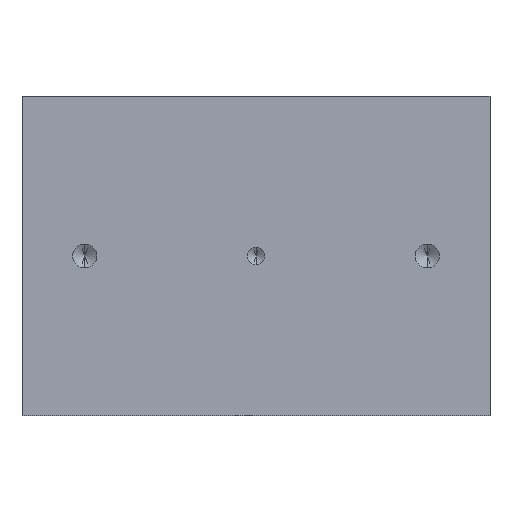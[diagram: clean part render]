
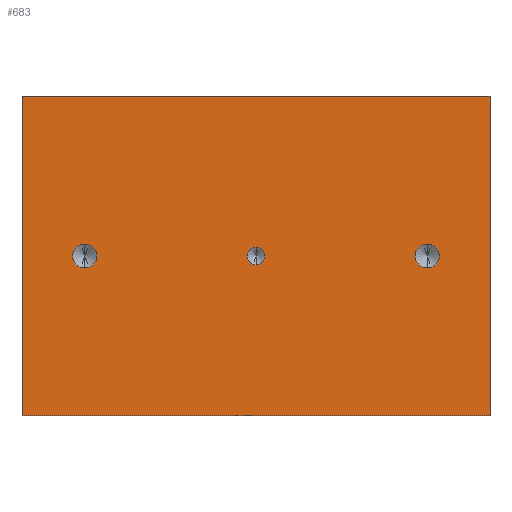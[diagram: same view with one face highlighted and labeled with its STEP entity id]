
A CAD part, front view. The second image highlights one B-rep face of the part: STEP entity #683.
In plain terms, the highlighted planar face has unit normal (0, -1, 0).
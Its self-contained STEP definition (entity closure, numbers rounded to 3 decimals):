
#3 = DIRECTION ( 'NONE',  ( -1., 0., 0. ) ) ;
#18 = CARTESIAN_POINT ( 'NONE',  ( 11., 0., 25.9 ) ) ;
#33 = CARTESIAN_POINT ( 'NONE',  ( 82., 0., 56. ) ) ;
#38 = VERTEX_POINT ( 'NONE', #209 ) ;
#43 = CARTESIAN_POINT ( 'NONE',  ( 82., 0., 0. ) ) ;
#58 = CARTESIAN_POINT ( 'NONE',  ( 11., 0., 30.1 ) ) ;
#63 = CARTESIAN_POINT ( 'NONE',  ( 71., 0., 25.9 ) ) ;
#74 = CARTESIAN_POINT ( 'NONE',  ( 0., 0., 0. ) ) ;
#90 = VERTEX_POINT ( 'NONE', #94 ) ;
#91 = CARTESIAN_POINT ( 'NONE',  ( 0., 0., 0. ) ) ;
#94 = CARTESIAN_POINT ( 'NONE',  ( 0., 0., 56. ) ) ;
#98 = CARTESIAN_POINT ( 'NONE',  ( 41., 0., 29.5 ) ) ;
#111 = CARTESIAN_POINT ( 'NONE',  ( 71., 0., 30.1 ) ) ;
#138 = DIRECTION ( 'NONE',  ( 1., 0., 0. ) ) ;
#154 = CARTESIAN_POINT ( 'NONE',  ( 82., 0., 0. ) ) ;
#158 = CARTESIAN_POINT ( 'NONE',  ( 0., 0., 56. ) ) ;
#172 = DIRECTION ( 'NONE',  ( 0., -1., 0. ) ) ;
#173 = DIRECTION ( 'NONE',  ( 0., -1., 0. ) ) ;
#174 = VERTEX_POINT ( 'NONE', #43 ) ;
#175 = DIRECTION ( 'NONE',  ( 0., 0., -1. ) ) ;
#186 = VERTEX_POINT ( 'NONE', #98 ) ;
#201 = DIRECTION ( 'NONE',  ( 0., -1., 0. ) ) ;
#204 = CARTESIAN_POINT ( 'NONE',  ( 11., 0., 28. ) ) ;
#207 = VERTEX_POINT ( 'NONE', #18 ) ;
#209 = CARTESIAN_POINT ( 'NONE',  ( 41., 0., 26.5 ) ) ;
#212 = VERTEX_POINT ( 'NONE', #58 ) ;
#225 = VERTEX_POINT ( 'NONE', #111 ) ;
#229 = DIRECTION ( 'NONE',  ( 0., 0., -1. ) ) ;
#234 = VERTEX_POINT ( 'NONE', #33 ) ;
#250 = CARTESIAN_POINT ( 'NONE',  ( 41., 0., 28. ) ) ;
#251 = DIRECTION ( 'NONE',  ( 0., 0., -1. ) ) ;
#263 = CARTESIAN_POINT ( 'NONE',  ( 71., 0., 28. ) ) ;
#265 = VERTEX_POINT ( 'NONE', #91 ) ;
#268 = VERTEX_POINT ( 'NONE', #63 ) ;
#279 = DIRECTION ( 'NONE',  ( 0., 0., -1. ) ) ;
#282 = AXIS2_PLACEMENT_3D ( 'NONE', #532, #518, #519 ) ;
#353 = EDGE_CURVE ( 'NONE', #90, #234, #1354, .T. ) ;
#362 = EDGE_CURVE ( 'NONE', #234, #174, #1173, .T. ) ;
#368 = EDGE_CURVE ( 'NONE', #174, #265, #1183, .T. ) ;
#378 = EDGE_CURVE ( 'NONE', #268, #225, #1150, .T. ) ;
#379 = EDGE_CURVE ( 'NONE', #38, #186, #1151, .T. ) ;
#380 = EDGE_CURVE ( 'NONE', #207, #212, #1154, .T. ) ;
#403 = EDGE_CURVE ( 'NONE', #212, #207, #1391, .T. ) ;
#406 = EDGE_CURVE ( 'NONE', #186, #38, #1267, .T. ) ;
#411 = EDGE_CURVE ( 'NONE', #225, #268, #1289, .T. ) ;
#518 = DIRECTION ( 'NONE',  ( 0., 1., 0. ) ) ;
#519 = DIRECTION ( 'NONE',  ( 0., 0., 1. ) ) ;
#532 = CARTESIAN_POINT ( 'NONE',  ( 0., 0., 56. ) ) ;
#535 = PLANE ( 'NONE',  #282 ) ;
#643 = EDGE_CURVE ( 'NONE', #265, #90, #1406, .T. ) ;
#683 = ADVANCED_FACE ( 'NONE', ( #775, #783, #782, #785 ), #535, .F. ) ;
#775 = FACE_BOUND ( 'NONE', #1050, .T. ) ;
#782 = FACE_BOUND ( 'NONE', #1048, .T. ) ;
#783 = FACE_BOUND ( 'NONE', #1009, .T. ) ;
#785 = FACE_OUTER_BOUND ( 'NONE', #986, .T. ) ;
#986 = EDGE_LOOP ( 'NONE', ( #1237, #1253, #1254, #1250 ) ) ;
#1009 = EDGE_LOOP ( 'NONE', ( #1222, #1256 ) ) ;
#1048 = EDGE_LOOP ( 'NONE', ( #1255, #1236 ) ) ;
#1050 = EDGE_LOOP ( 'NONE', ( #1161, #1221 ) ) ;
#1150 = CIRCLE ( 'NONE', #1792, 2.1 ) ;
#1151 = CIRCLE ( 'NONE', #1814, 1.5 ) ;
#1154 = CIRCLE ( 'NONE', #1799, 2.1 ) ;
#1161 = ORIENTED_EDGE ( 'NONE', *, *, #379, .F. ) ;
#1173 = LINE ( 'NONE', #154, #1325 ) ;
#1179 = VECTOR ( 'NONE', #3, 1000. ) ;
#1183 = LINE ( 'NONE', #74, #1179 ) ;
#1221 = ORIENTED_EDGE ( 'NONE', *, *, #406, .F. ) ;
#1222 = ORIENTED_EDGE ( 'NONE', *, *, #380, .F. ) ;
#1236 = ORIENTED_EDGE ( 'NONE', *, *, #411, .F. ) ;
#1237 = ORIENTED_EDGE ( 'NONE', *, *, #643, .F. ) ;
#1250 = ORIENTED_EDGE ( 'NONE', *, *, #353, .F. ) ;
#1253 = ORIENTED_EDGE ( 'NONE', *, *, #368, .F. ) ;
#1254 = ORIENTED_EDGE ( 'NONE', *, *, #362, .F. ) ;
#1255 = ORIENTED_EDGE ( 'NONE', *, *, #378, .F. ) ;
#1256 = ORIENTED_EDGE ( 'NONE', *, *, #403, .F. ) ;
#1267 = CIRCLE ( 'NONE', #1807, 1.5 ) ;
#1289 = CIRCLE ( 'NONE', #1805, 2.1 ) ;
#1324 = VECTOR ( 'NONE', #138, 1000. ) ;
#1325 = VECTOR ( 'NONE', #279, 1000. ) ;
#1354 = LINE ( 'NONE', #158, #1324 ) ;
#1391 = CIRCLE ( 'NONE', #1802, 2.1 ) ;
#1406 = LINE ( 'NONE', #1611, #1407 ) ;
#1407 = VECTOR ( 'NONE', #1629, 1000. ) ;
#1442 = DIRECTION ( 'NONE',  ( 0., 0., -1. ) ) ;
#1443 = DIRECTION ( 'NONE',  ( 0., -1., 0. ) ) ;
#1444 = CARTESIAN_POINT ( 'NONE',  ( 11., 0., 28. ) ) ;
#1453 = CARTESIAN_POINT ( 'NONE',  ( 71., 0., 28. ) ) ;
#1494 = DIRECTION ( 'NONE',  ( 0., 0., -1. ) ) ;
#1495 = DIRECTION ( 'NONE',  ( 0., -1., 0. ) ) ;
#1525 = DIRECTION ( 'NONE',  ( 0., -1., 0. ) ) ;
#1526 = DIRECTION ( 'NONE',  ( 0., 0., -1. ) ) ;
#1527 = CARTESIAN_POINT ( 'NONE',  ( 41., 0., 28. ) ) ;
#1611 = CARTESIAN_POINT ( 'NONE',  ( 0., 0., 0. ) ) ;
#1629 = DIRECTION ( 'NONE',  ( 0., 0., 1. ) ) ;
#1792 = AXIS2_PLACEMENT_3D ( 'NONE', #263, #172, #251 ) ;
#1799 = AXIS2_PLACEMENT_3D ( 'NONE', #204, #201, #229 ) ;
#1802 = AXIS2_PLACEMENT_3D ( 'NONE', #1444, #1443, #1442 ) ;
#1805 = AXIS2_PLACEMENT_3D ( 'NONE', #1453, #1495, #1494 ) ;
#1807 = AXIS2_PLACEMENT_3D ( 'NONE', #1527, #1525, #1526 ) ;
#1814 = AXIS2_PLACEMENT_3D ( 'NONE', #250, #173, #175 ) ;
